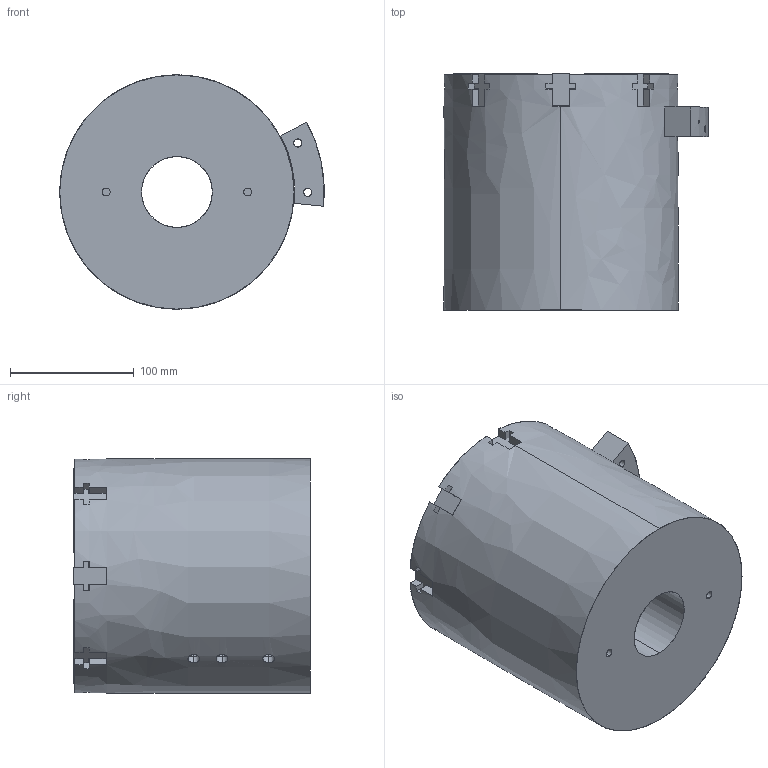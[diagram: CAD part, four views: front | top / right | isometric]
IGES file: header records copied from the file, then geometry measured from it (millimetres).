
Start section: SolidWorks IGES file using analytic representation for surfaces
Global section: file name: C:\Users\cad\Downloads\AGP-10-ORM (3)\AGP-10-ORM\Iges\agp10or_closed.IGS; native system: SolidWorks 2017; preprocessor: SolidWorks 2017; author: cad; date: 191101.092842; units: inch
Bounding box: 213.75 x 191.13 x 189.36 mm (x, y, z)
Surface area: 303393.2 mm2 (no closed solid volume)
Topology: 0 solids, 0 shells, 644 faces, 7914 edges, 7814 vertices
Faces by surface type: revolution 368, bspline 276
